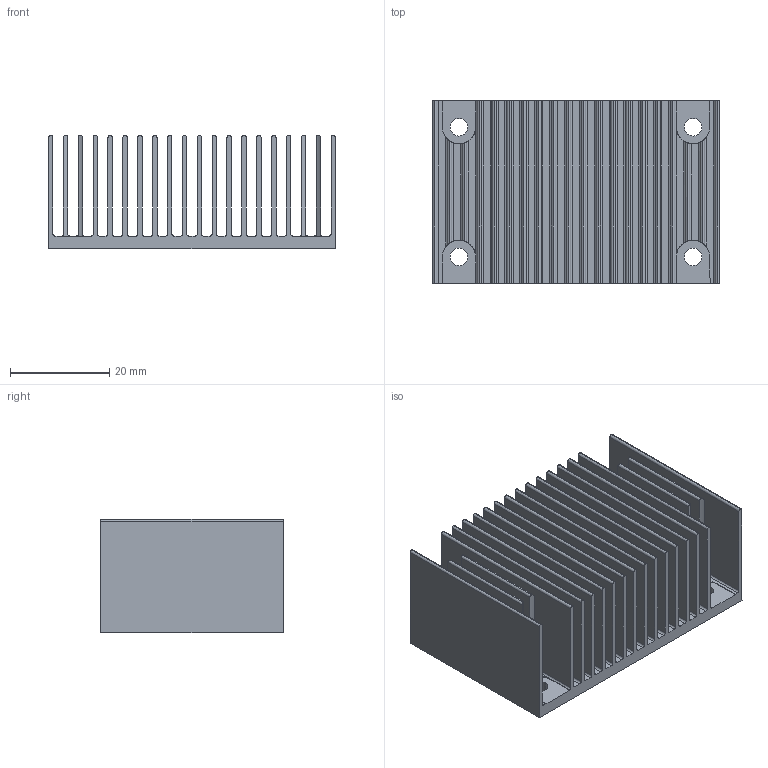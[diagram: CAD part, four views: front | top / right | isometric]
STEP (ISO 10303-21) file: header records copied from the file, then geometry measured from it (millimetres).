
FILE_DESCRIPTION (( 'STEP AP214' ), '1' );
FILE_NAME ('HS1574E_E.STEP', '2023-03-03T16:27:18', ( '' ), ( '' ), 'SwSTEP 2.0', 'SolidWorks 2020', '' );
FILE_SCHEMA (( 'AUTOMOTIVE_DESIGN' ));
Length unit declared in the file: inch
Products named in the file (1): HS1574E_E
Bounding box: 57.91 x 36.83 x 22.86 mm (x, y, z)
Volume: 17384.1 mm3; surface area: 32308.4 mm2
Topology: 1 solids, 1 shells, 166 faces, 492 edges, 328 vertices
Faces by surface type: cylinder 91, plane 75
Entity records: 5999 total; most frequent: CARTESIAN_POINT 1414, ORIENTED_EDGE 984, DIRECTION 945, EDGE_CURVE 492, VERTEX_POINT 328, AXIS2_PLACEMENT_3D 324, LINE 297, VECTOR 297
